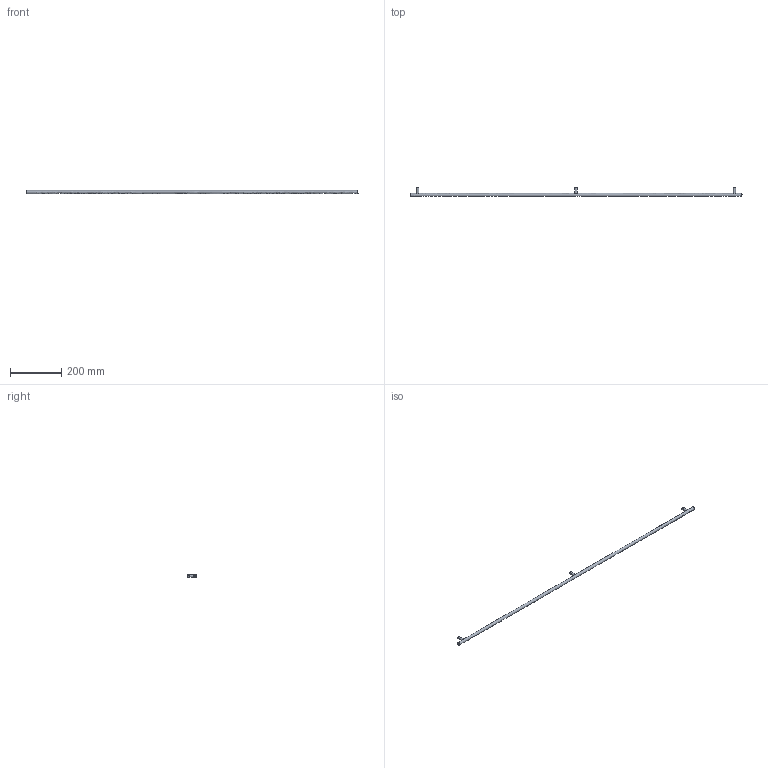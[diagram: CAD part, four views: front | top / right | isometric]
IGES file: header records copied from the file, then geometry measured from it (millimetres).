
Start section: Data from Parasolid IGES Translator 15.0.47, Copyright(c) 2006 Siemens P LM Software. All Rights Reserved.
Global section: file name: 9070755.igs; native system:  By UGS Corp.; preprocessor: XPlus GENERIC/IGES 3.0; author: Noname; organization: Noname; date: 20140123.103949; units: millimetre
Bounding box: 1300 x 35 x 12 mm (x, y, z)
Surface area: 51759 mm2 (no closed solid volume)
Topology: 0 solids, 0 shells, 17 faces, 54 edges, 42 vertices
Faces by surface type: revolution 9, extrusion 8
